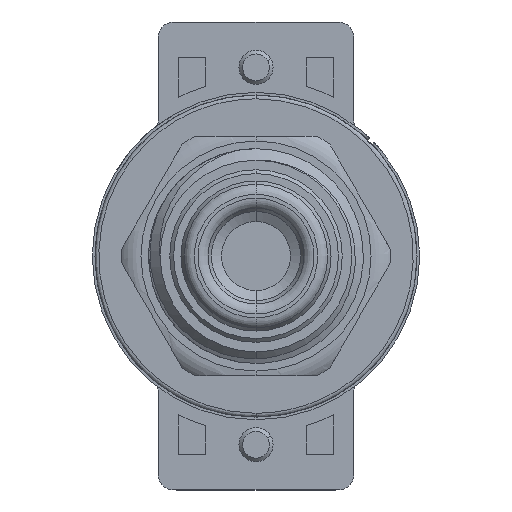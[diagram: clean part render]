
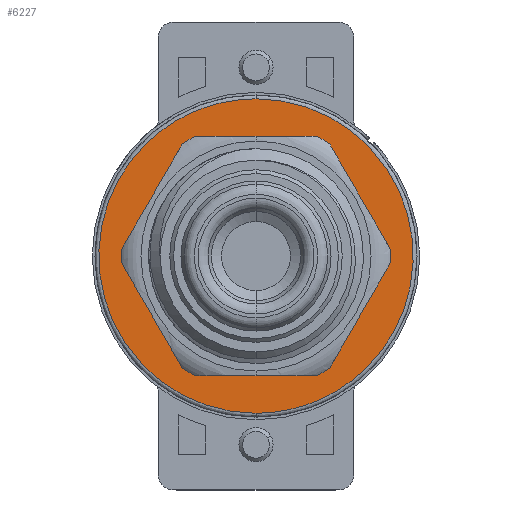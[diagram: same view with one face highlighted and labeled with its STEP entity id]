
A CAD part, front view. The second image highlights one B-rep face of the part: STEP entity #6227.
In plain terms, the highlighted planar face has unit normal (0, -1, 0) as drawn and (0, 0, 1) by its records, which use the part's own axes.
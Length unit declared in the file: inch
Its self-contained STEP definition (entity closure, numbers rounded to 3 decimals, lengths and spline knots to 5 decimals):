
#508 = ORIENTED_EDGE ( 'NONE', *, *, #22736, .F. ) ;
#1061 = CARTESIAN_POINT ( 'NONE',  ( -0.41, 0., -0.11197 ) ) ;
#1075 = CARTESIAN_POINT ( 'NONE',  ( 0.41, 0., -0.11197 ) ) ;
#1908 = EDGE_CURVE ( 'NONE', #12927, #21459, #7505, .T. ) ;
#2540 = DIRECTION ( 'NONE',  ( 0., 1., 0. ) ) ;
#2887 = DIRECTION ( 'NONE',  ( 0., 0., 1. ) ) ;
#2946 = ORIENTED_EDGE ( 'NONE', *, *, #9084, .F. ) ;
#3684 = VERTEX_POINT ( 'NONE', #1061 ) ;
#3835 = EDGE_LOOP ( 'NONE', ( #20270, #508 ) ) ;
#5390 = ORIENTED_EDGE ( 'NONE', *, *, #1908, .F. ) ;
#6141 = CARTESIAN_POINT ( 'NONE',  ( -0.41, -0.82, -0.11197 ) ) ;
#6164 = CARTESIAN_POINT ( 'NONE',  ( 0., 0.1875, -0.11197 ) ) ;
#6227 = ADVANCED_FACE ( 'NONE', ( #15546, #16962 ), #19071, .F. ) ;
#6300 = CARTESIAN_POINT ( 'NONE',  ( 0., 0., -0.11197 ) ) ;
#7040 = CIRCLE ( 'NONE', #9297, 0.1875 ) ;
#7505 = CIRCLE ( 'NONE', #17970, 0.1875 ) ;
#8295 = DIRECTION ( 'NONE',  ( 0., 0., -1. ) ) ;
#8407 = EDGE_LOOP ( 'NONE', ( #5390, #2946 ) ) ;
#8955 = CARTESIAN_POINT ( 'NONE',  ( 0.41, 0., -0.11197 ) ) ;
#9084 = EDGE_CURVE ( 'NONE', #21459, #12927, #7040, .T. ) ;
#9297 = AXIS2_PLACEMENT_3D ( 'NONE', #15062, #12739, #10983 ) ;
#9414 = AXIS2_PLACEMENT_3D ( 'NONE', #6164, #8295, #11782 ) ;
#10555 =( BOUNDED_CURVE ( )  B_SPLINE_CURVE ( 3, ( #18456, #14573, #16465, #8955 ),
 .UNSPECIFIED., .F., .F. ) 
 B_SPLINE_CURVE_WITH_KNOTS ( ( 4, 4 ),
 ( 0., 1. ),
 .UNSPECIFIED. ) 
 CURVE ( )  GEOMETRIC_REPRESENTATION_ITEM ( )  RATIONAL_B_SPLINE_CURVE ( ( 1., 0.333, 0.333, 1. ) ) 
 REPRESENTATION_ITEM ( '' )  );
#10983 = DIRECTION ( 'NONE',  ( 0., 1., 0. ) ) ;
#11782 = DIRECTION ( 'NONE',  ( 0., 1., 0. ) ) ;
#12739 = DIRECTION ( 'NONE',  ( 0., 0., 1. ) ) ;
#12927 = VERTEX_POINT ( 'NONE', #21307 ) ;
#13893 = CARTESIAN_POINT ( 'NONE',  ( 0., -0.1875, -0.11197 ) ) ;
#14573 = CARTESIAN_POINT ( 'NONE',  ( -0.41, 0.82, -0.11197 ) ) ;
#15062 = CARTESIAN_POINT ( 'NONE',  ( 0., 0., -0.11197 ) ) ;
#15308 = CARTESIAN_POINT ( 'NONE',  ( 0.41, -0.82, -0.11197 ) ) ;
#15546 = FACE_BOUND ( 'NONE', #8407, .T. ) ;
#16105 =( BOUNDED_CURVE ( )  B_SPLINE_CURVE ( 3, ( #1075, #15308, #6141, #17058 ),
 .UNSPECIFIED., .F., .T. ) 
 B_SPLINE_CURVE_WITH_KNOTS ( ( 4, 4 ),
 ( 0., 1. ),
 .UNSPECIFIED. ) 
 CURVE ( )  GEOMETRIC_REPRESENTATION_ITEM ( )  RATIONAL_B_SPLINE_CURVE ( ( 1., 0.333, 0.333, 1. ) ) 
 REPRESENTATION_ITEM ( '' )  );
#16465 = CARTESIAN_POINT ( 'NONE',  ( 0.41, 0.82, -0.11197 ) ) ;
#16889 = EDGE_CURVE ( 'NONE', #3684, #18267, #10555, .T. ) ;
#16962 = FACE_OUTER_BOUND ( 'NONE', #3835, .T. ) ;
#17058 = CARTESIAN_POINT ( 'NONE',  ( -0.41, 0., -0.11197 ) ) ;
#17970 = AXIS2_PLACEMENT_3D ( 'NONE', #6300, #2887, #2540 ) ;
#18267 = VERTEX_POINT ( 'NONE', #22543 ) ;
#18456 = CARTESIAN_POINT ( 'NONE',  ( -0.41, 0., -0.11197 ) ) ;
#19071 = PLANE ( 'NONE',  #9414 ) ;
#20270 = ORIENTED_EDGE ( 'NONE', *, *, #16889, .F. ) ;
#21307 = CARTESIAN_POINT ( 'NONE',  ( 0., 0.1875, -0.11197 ) ) ;
#21459 = VERTEX_POINT ( 'NONE', #13893 ) ;
#22543 = CARTESIAN_POINT ( 'NONE',  ( 0.41, 0., -0.11197 ) ) ;
#22736 = EDGE_CURVE ( 'NONE', #18267, #3684, #16105, .T. ) ;
